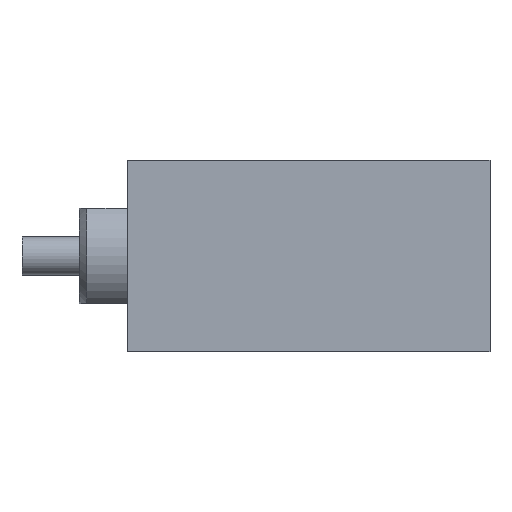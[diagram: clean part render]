
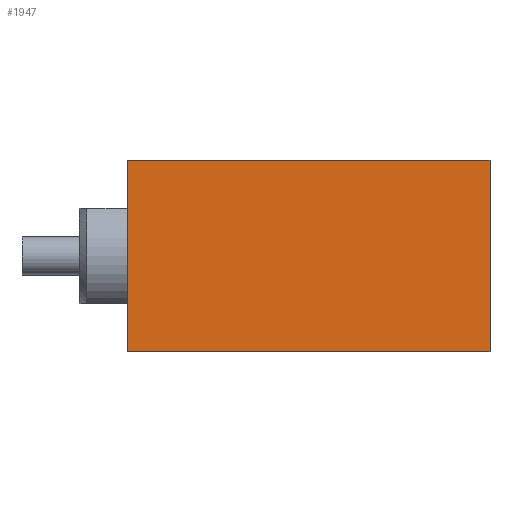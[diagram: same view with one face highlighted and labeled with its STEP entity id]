
A CAD part, front view. The second image highlights one B-rep face of the part: STEP entity #1947.
In plain terms, the highlighted planar face has unit normal (0, -1, 0).
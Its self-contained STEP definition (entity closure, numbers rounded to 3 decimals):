
#20 = VERTEX_POINT ( 'NONE', #229 ) ;
#63 = DIRECTION ( 'NONE',  ( -1., 0., 0. ) ) ;
#119 = VERTEX_POINT ( 'NONE', #2069 ) ;
#218 = CARTESIAN_POINT ( 'NONE',  ( 19., -7.5, -5. ) ) ;
#227 = EDGE_LOOP ( 'NONE', ( #1570, #2096, #904, #1892 ) ) ;
#229 = CARTESIAN_POINT ( 'NONE',  ( 0., -7.5, 5. ) ) ;
#387 = LINE ( 'NONE', #1557, #2409 ) ;
#517 = AXIS2_PLACEMENT_3D ( 'NONE', #218, #1971, #2175 ) ;
#524 = DIRECTION ( 'NONE',  ( 0., 0., 1. ) ) ;
#599 = LINE ( 'NONE', #1407, #763 ) ;
#603 = VECTOR ( 'NONE', #1966, 1000. ) ;
#763 = VECTOR ( 'NONE', #63, 1000. ) ;
#808 = VECTOR ( 'NONE', #1395, 1000. ) ;
#893 = EDGE_CURVE ( 'NONE', #948, #2293, #1198, .T. ) ;
#904 = ORIENTED_EDGE ( 'NONE', *, *, #893, .T. ) ;
#939 = EDGE_CURVE ( 'NONE', #948, #119, #599, .T. ) ;
#948 = VERTEX_POINT ( 'NONE', #2009 ) ;
#991 = FACE_OUTER_BOUND ( 'NONE', #227, .T. ) ;
#1125 = CARTESIAN_POINT ( 'NONE',  ( 19., -7.5, 5. ) ) ;
#1174 = CARTESIAN_POINT ( 'NONE',  ( 19., -7.5, 5. ) ) ;
#1179 = PLANE ( 'NONE',  #517 ) ;
#1198 = LINE ( 'NONE', #1605, #808 ) ;
#1395 = DIRECTION ( 'NONE',  ( 0., 0., 1. ) ) ;
#1407 = CARTESIAN_POINT ( 'NONE',  ( 19., -7.5, -5. ) ) ;
#1557 = CARTESIAN_POINT ( 'NONE',  ( 0., -7.5, -5. ) ) ;
#1564 = LINE ( 'NONE', #1174, #603 ) ;
#1570 = ORIENTED_EDGE ( 'NONE', *, *, #1860, .F. ) ;
#1605 = CARTESIAN_POINT ( 'NONE',  ( 19., -7.5, -5. ) ) ;
#1728 = EDGE_CURVE ( 'NONE', #2293, #20, #1564, .T. ) ;
#1860 = EDGE_CURVE ( 'NONE', #119, #20, #387, .T. ) ;
#1892 = ORIENTED_EDGE ( 'NONE', *, *, #1728, .T. ) ;
#1947 = ADVANCED_FACE ( 'NONE', ( #991 ), #1179, .T. ) ;
#1966 = DIRECTION ( 'NONE',  ( -1., 0., 0. ) ) ;
#1971 = DIRECTION ( 'NONE',  ( 0., -1., 0. ) ) ;
#2009 = CARTESIAN_POINT ( 'NONE',  ( 19., -7.5, -5. ) ) ;
#2069 = CARTESIAN_POINT ( 'NONE',  ( 0., -7.5, -5. ) ) ;
#2096 = ORIENTED_EDGE ( 'NONE', *, *, #939, .F. ) ;
#2175 = DIRECTION ( 'NONE',  ( 1., 0., 0. ) ) ;
#2293 = VERTEX_POINT ( 'NONE', #1125 ) ;
#2409 = VECTOR ( 'NONE', #524, 1000. ) ;
